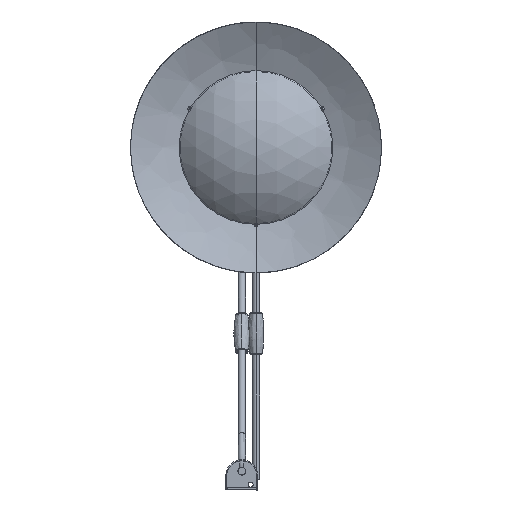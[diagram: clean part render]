
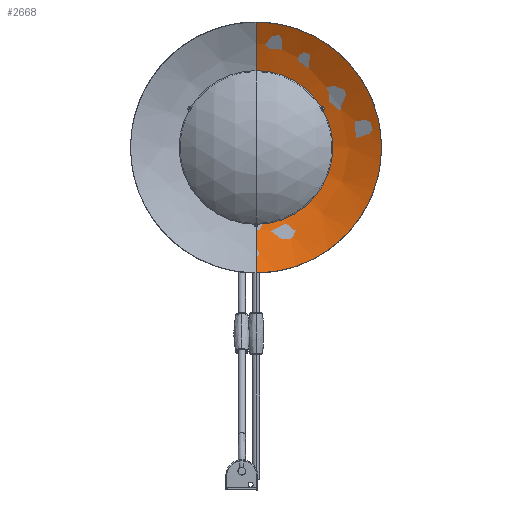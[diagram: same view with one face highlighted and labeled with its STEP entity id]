
A CAD part, front view. The second image highlights one B-rep face of the part: STEP entity #2668.
In plain terms, the highlighted free-form (B-spline) face has degree [2, 2] with [3, 5] control points.
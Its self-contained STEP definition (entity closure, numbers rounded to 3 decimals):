
#46=(
BOUNDED_SURFACE()
B_SPLINE_SURFACE(2,2,((#4383,#4384,#4385,#4386,#4387),(#4388,#4389,#4390,
#4391,#4392),(#4393,#4394,#4395,#4396,#4397)),.UNSPECIFIED.,.F.,.F.,.F.)
B_SPLINE_SURFACE_WITH_KNOTS((3,3),(3,2,3),(1.021,1.327),
(-1.571,0.,1.571),.UNSPECIFIED.)
GEOMETRIC_REPRESENTATION_ITEM()
RATIONAL_B_SPLINE_SURFACE(((1.,0.707,1.,0.707,1.),
(0.988,0.699,0.988,0.699,
0.988),(1.,0.707,1.,0.707,1.)))
REPRESENTATION_ITEM('')
SURFACE()
);
#202=FACE_OUTER_BOUND('',#379,.T.);
#379=EDGE_LOOP('',(#1895,#1896,#1897,#1898));
#557=B_SPLINE_CURVE_WITH_KNOTS('',3,(#4242,#4243,#4244,#4245,#4246,#4247,
#4248,#4249,#4250,#4251,#4252,#4253,#4254,#4255,#4256,#4257,#4258,#4259,
#4260,#4261),.UNSPECIFIED.,.F.,.F.,(4,2,2,2,2,2,2,2,2,4),(579.771,
625.078,703.213,781.348,859.483,937.617,
1015.752,1093.887,1172.022,1210.047),
 .UNSPECIFIED.);
#562=B_SPLINE_CURVE_WITH_KNOTS('',3,(#4400,#4401,#4402,#4403,#4404,#4405,
#4406,#4407,#4408,#4409,#4410,#4411,#4412,#4413,#4414,#4415,#4416,#4417,
#4418,#4419,#4420,#4421,#4422),.UNSPECIFIED.,.F.,.F.,(4,3,2,2,2,2,2,2,2,
2,4),(-23.452,0.,20.522,41.044,77.29,
113.536,149.782,186.027,222.273,258.519,
268.867),.UNSPECIFIED.);
#608=CIRCLE('',#2875,382.257);
#609=CIRCLE('',#2876,382.257);
#1177=VERTEX_POINT('',#4214);
#1179=VERTEX_POINT('',#4240);
#1182=VERTEX_POINT('',#4398);
#1183=VERTEX_POINT('',#4399);
#1441=EDGE_CURVE('',#1177,#1179,#557,.T.);
#1448=EDGE_CURVE('',#1182,#1183,#562,.T.);
#1449=EDGE_CURVE('',#1177,#1182,#608,.T.);
#1450=EDGE_CURVE('',#1183,#1179,#609,.T.);
#1895=ORIENTED_EDGE('',*,*,#1448,.F.);
#1896=ORIENTED_EDGE('',*,*,#1449,.F.);
#1897=ORIENTED_EDGE('',*,*,#1441,.T.);
#1898=ORIENTED_EDGE('',*,*,#1450,.F.);
#2668=ADVANCED_FACE('',(#202),#46,.T.);
#2875=AXIS2_PLACEMENT_3D('',#4423,#3221,#3222);
#2876=AXIS2_PLACEMENT_3D('',#4424,#3223,#3224);
#3221=DIRECTION('center_axis',(1.,0.,0.));
#3222=DIRECTION('ref_axis',(0.,1.,0.));
#3223=DIRECTION('center_axis',(1.,0.,0.));
#3224=DIRECTION('ref_axis',(0.,-1.,0.));
#4214=CARTESIAN_POINT('',(22.65,-345.367,-519.411));
#4240=CARTESIAN_POINT('',(22.65,-745.398,-519.411));
#4242=CARTESIAN_POINT('Ctrl Pts',(22.65,-345.367,-519.411));
#4243=CARTESIAN_POINT('Ctrl Pts',(37.684,-345.367,-519.411));
#4244=CARTESIAN_POINT('Ctrl Pts',(52.704,-347.062,-519.411));
#4245=CARTESIAN_POINT('Ctrl Pts',(92.807,-356.273,-519.411));
#4246=CARTESIAN_POINT('Ctrl Pts',(116.81,-367.006,-519.411));
#4247=CARTESIAN_POINT('Ctrl Pts',(159.35,-397.067,-519.411));
#4248=CARTESIAN_POINT('Ctrl Pts',(177.481,-416.109,-519.411));
#4249=CARTESIAN_POINT('Ctrl Pts',(205.424,-460.07,-519.411));
#4250=CARTESIAN_POINT('Ctrl Pts',(214.968,-484.569,-519.411));
#4251=CARTESIAN_POINT('Ctrl Pts',(224.128,-535.847,-519.411));
#4252=CARTESIAN_POINT('Ctrl Pts',(223.657,-562.135,-519.411));
#4253=CARTESIAN_POINT('Ctrl Pts',(212.664,-613.052,-519.411));
#4254=CARTESIAN_POINT('Ctrl Pts',(202.247,-637.193,-519.411));
#4255=CARTESIAN_POINT('Ctrl Pts',(172.747,-680.124,-519.411));
#4256=CARTESIAN_POINT('Ctrl Pts',(153.945,-698.504,-519.411));
#4257=CARTESIAN_POINT('Ctrl Pts',(110.354,-727.021,-519.411));
#4258=CARTESIAN_POINT('Ctrl Pts',(85.982,-736.886,-519.411));
#4259=CARTESIAN_POINT('Ctrl Pts',(47.958,-744.194,-519.411));
#4260=CARTESIAN_POINT('Ctrl Pts',(35.316,-745.398,-519.411));
#4261=CARTESIAN_POINT('Ctrl Pts',(22.65,-745.398,-519.411));
#4383=CARTESIAN_POINT('Ctrl Pts',(22.65,-745.398,-519.411));
#4384=CARTESIAN_POINT('Ctrl Pts',(222.665,-745.398,-519.411));
#4385=CARTESIAN_POINT('Ctrl Pts',(222.665,-545.382,-519.411));
#4386=CARTESIAN_POINT('Ctrl Pts',(222.665,-345.367,-519.411));
#4387=CARTESIAN_POINT('Ctrl Pts',(22.65,-345.367,-519.411));
#4388=CARTESIAN_POINT('Ctrl Pts',(22.65,-695.239,-488.699));
#4389=CARTESIAN_POINT('Ctrl Pts',(172.506,-695.239,-488.699));
#4390=CARTESIAN_POINT('Ctrl Pts',(172.506,-545.382,-488.699));
#4391=CARTESIAN_POINT('Ctrl Pts',(172.506,-395.526,-488.699));
#4392=CARTESIAN_POINT('Ctrl Pts',(22.65,-395.526,-488.699));
#4393=CARTESIAN_POINT('Ctrl Pts',(22.65,-638.167,-474.485));
#4394=CARTESIAN_POINT('Ctrl Pts',(115.435,-638.167,-474.485));
#4395=CARTESIAN_POINT('Ctrl Pts',(115.435,-545.382,-474.485));
#4396=CARTESIAN_POINT('Ctrl Pts',(115.435,-452.598,-474.485));
#4397=CARTESIAN_POINT('Ctrl Pts',(22.65,-452.598,-474.485));
#4398=CARTESIAN_POINT('',(22.65,-452.598,-474.485));
#4399=CARTESIAN_POINT('',(22.65,-638.167,-474.485));
#4400=CARTESIAN_POINT('Ctrl Pts',(22.65,-452.598,-474.485));
#4401=CARTESIAN_POINT('Ctrl Pts',(30.434,-452.598,-474.485));
#4402=CARTESIAN_POINT('Ctrl Pts',(38.204,-453.577,-474.485));
#4403=CARTESIAN_POINT('Ctrl Pts',(45.775,-455.526,-474.485));
#4404=CARTESIAN_POINT('Ctrl Pts',(52.4,-457.231,-474.485));
#4405=CARTESIAN_POINT('Ctrl Pts',(58.816,-459.663,-474.485));
#4406=CARTESIAN_POINT('Ctrl Pts',(70.996,-465.894,-474.485));
#4407=CARTESIAN_POINT('Ctrl Pts',(76.723,-469.673,-474.485));
#4408=CARTESIAN_POINT('Ctrl Pts',(91.271,-481.773,-474.485));
#4409=CARTESIAN_POINT('Ctrl Pts',(98.962,-491.24,-474.485));
#4410=CARTESIAN_POINT('Ctrl Pts',(110.283,-512.588,-474.485));
#4411=CARTESIAN_POINT('Ctrl Pts',(113.804,-524.265,-474.485));
#4412=CARTESIAN_POINT('Ctrl Pts',(116.172,-548.313,-474.485));
#4413=CARTESIAN_POINT('Ctrl Pts',(114.997,-560.453,-474.485));
#4414=CARTESIAN_POINT('Ctrl Pts',(108.058,-583.599,-474.485));
#4415=CARTESIAN_POINT('Ctrl Pts',(102.361,-594.384,-474.485));
#4416=CARTESIAN_POINT('Ctrl Pts',(87.154,-613.163,-474.485));
#4417=CARTESIAN_POINT('Ctrl Pts',(77.79,-620.978,-474.485));
#4418=CARTESIAN_POINT('Ctrl Pts',(56.592,-632.577,-474.485));
#4419=CARTESIAN_POINT('Ctrl Pts',(44.962,-636.251,-474.485));
#4420=CARTESIAN_POINT('Ctrl Pts',(29.526,-637.976,-474.485));
#4421=CARTESIAN_POINT('Ctrl Pts',(26.086,-638.167,-474.485));
#4422=CARTESIAN_POINT('Ctrl Pts',(22.65,-638.167,-474.485));
#4423=CARTESIAN_POINT('Origin',(22.65,-544.978,-845.411));
#4424=CARTESIAN_POINT('Origin',(22.65,-545.787,-845.411));
